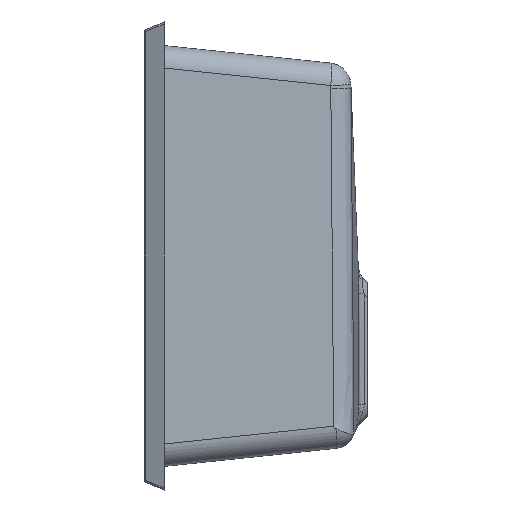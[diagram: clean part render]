
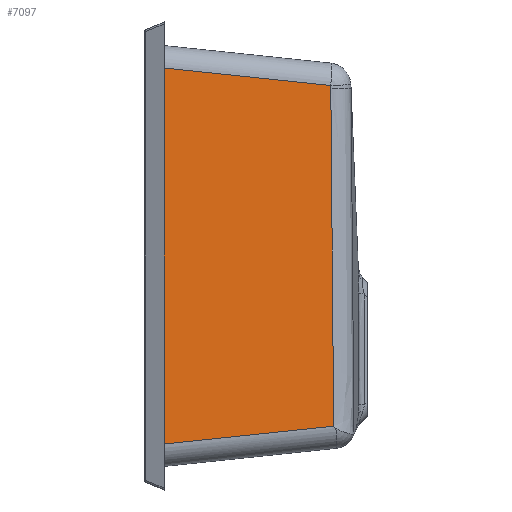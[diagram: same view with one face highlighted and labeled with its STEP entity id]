
A CAD part, left-side view. The second image highlights one B-rep face of the part: STEP entity #7097.
In plain terms, the highlighted planar face has unit normal (-0.995, -0.104, 0).
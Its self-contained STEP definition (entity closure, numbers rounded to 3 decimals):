
#19 = VECTOR ( 'NONE', #8188, 1000. ) ;
#133 = EDGE_CURVE ( 'NONE', #4749, #7549, #1257, .T. ) ;
#206 = FACE_OUTER_BOUND ( 'NONE', #7510, .T. ) ;
#271 = CARTESIAN_POINT ( 'NONE',  ( -237.868, -182.392, 45.878 ) ) ;
#421 = VECTOR ( 'NONE', #8225, 1000. ) ;
#451 = VERTEX_POINT ( 'NONE', #2597 ) ;
#730 = CARTESIAN_POINT ( 'NONE',  ( -255.738, -12.373, -183.859 ) ) ;
#997 = ORIENTED_EDGE ( 'NONE', *, *, #7553, .T. ) ;
#1043 = CARTESIAN_POINT ( 'NONE',  ( -256.962, -0.732, 200. ) ) ;
#1066 = VECTOR ( 'NONE', #7760, 1000. ) ;
#1257 = LINE ( 'NONE', #2022, #1066 ) ;
#1303 = EDGE_CURVE ( 'NONE', #1882, #451, #4103, .T. ) ;
#1606 = CARTESIAN_POINT ( 'NONE',  ( -237.705, -183.95, -137.43 ) ) ;
#1627 = LINE ( 'NONE', #6939, #19 ) ;
#1707 = DIRECTION ( 'NONE',  ( -0.995, -0.105, 0. ) ) ;
#1882 = VERTEX_POINT ( 'NONE', #3013 ) ;
#2022 = CARTESIAN_POINT ( 'NONE',  ( -255.738, -12.373, -184.423 ) ) ;
#2075 = ORIENTED_EDGE ( 'NONE', *, *, #133, .T. ) ;
#2597 = CARTESIAN_POINT ( 'NONE',  ( -237.973, -181.397, 162.864 ) ) ;
#2820 = CARTESIAN_POINT ( 'NONE',  ( -237.746, -183.56, -91.603 ) ) ;
#2898 = CARTESIAN_POINT ( 'NONE',  ( -237.965, -181.469, 154.42 ) ) ;
#2991 = ORIENTED_EDGE ( 'NONE', *, *, #5695, .T. ) ;
#3013 = CARTESIAN_POINT ( 'NONE',  ( -237.679, -184.191, -165.8 ) ) ;
#3258 = DIRECTION ( 'NONE',  ( 0.104, -0.989, 0.104 ) ) ;
#3475 = ORIENTED_EDGE ( 'NONE', *, *, #1303, .T. ) ;
#3516 = CARTESIAN_POINT ( 'NONE',  ( -237.696, -184.03, -146.887 ) ) ;
#3540 = CARTESIAN_POINT ( 'NONE',  ( -237.973, -181.397, 162.864 ) ) ;
#3790 = VECTOR ( 'NONE', #3258, 1000. ) ;
#3907 = CARTESIAN_POINT ( 'NONE',  ( -237.311, -187.699, 6.562 ) ) ;
#3997 = EDGE_CURVE ( 'NONE', #6966, #4749, #1627, .T. ) ;
#4090 = CARTESIAN_POINT ( 'NONE',  ( -237.827, -182.781, 0.051 ) ) ;
#4103 = B_SPLINE_CURVE_WITH_KNOTS ( 'NONE', 3, ( #7274, #6616, #3516, #1606, #2820, #7220, #4090, #271, #6068, #4734, #7244, #2898, #3540 ), .UNSPECIFIED., .F., .F., ( 4, 3, 3, 3, 4 ), ( 0., 0.028, 0.166, 0.303, 0.329 ), .UNSPECIFIED. ) ;
#4248 = DIRECTION ( 'NONE',  ( 0.105, -0.995, 0. ) ) ;
#4734 = CARTESIAN_POINT ( 'NONE',  ( -237.95, -181.612, 137.532 ) ) ;
#4749 = VERTEX_POINT ( 'NONE', #6524 ) ;
#5695 = EDGE_CURVE ( 'NONE', #451, #6966, #6689, .T. ) ;
#6068 = CARTESIAN_POINT ( 'NONE',  ( -237.909, -182.002, 91.705 ) ) ;
#6165 = PLANE ( 'NONE',  #7526 ) ;
#6208 = ORIENTED_EDGE ( 'NONE', *, *, #3997, .T. ) ;
#6481 = LINE ( 'NONE', #7661, #3790 ) ;
#6504 = CARTESIAN_POINT ( 'NONE',  ( -237.987, -181.266, 166.107 ) ) ;
#6524 = CARTESIAN_POINT ( 'NONE',  ( -255.738, -12.373, 183.859 ) ) ;
#6616 = CARTESIAN_POINT ( 'NONE',  ( -237.688, -184.111, -156.343 ) ) ;
#6689 = LINE ( 'NONE', #3907, #421 ) ;
#6939 = CARTESIAN_POINT ( 'NONE',  ( -257.123, 0.802, 185.243 ) ) ;
#6966 = VERTEX_POINT ( 'NONE', #6504 ) ;
#7097 = ADVANCED_FACE ( 'NONE', ( #206 ), #6165, .T. ) ;
#7220 = CARTESIAN_POINT ( 'NONE',  ( -237.787, -183.171, -45.776 ) ) ;
#7244 = CARTESIAN_POINT ( 'NONE',  ( -237.958, -181.541, 145.976 ) ) ;
#7274 = CARTESIAN_POINT ( 'NONE',  ( -237.679, -184.191, -165.8 ) ) ;
#7510 = EDGE_LOOP ( 'NONE', ( #6208, #2075, #997, #3475, #2991 ) ) ;
#7526 = AXIS2_PLACEMENT_3D ( 'NONE', #1043, #1707, #4248 ) ;
#7549 = VERTEX_POINT ( 'NONE', #730 ) ;
#7553 = EDGE_CURVE ( 'NONE', #7549, #1882, #6481, .T. ) ;
#7661 = CARTESIAN_POINT ( 'NONE',  ( -257.123, 0.802, -185.243 ) ) ;
#7760 = DIRECTION ( 'NONE',  ( 0., 0., -1. ) ) ;
#8188 = DIRECTION ( 'NONE',  ( -0.104, 0.989, 0.104 ) ) ;
#8225 = DIRECTION ( 'NONE',  ( -0.004, 0.04, 0.999 ) ) ;
